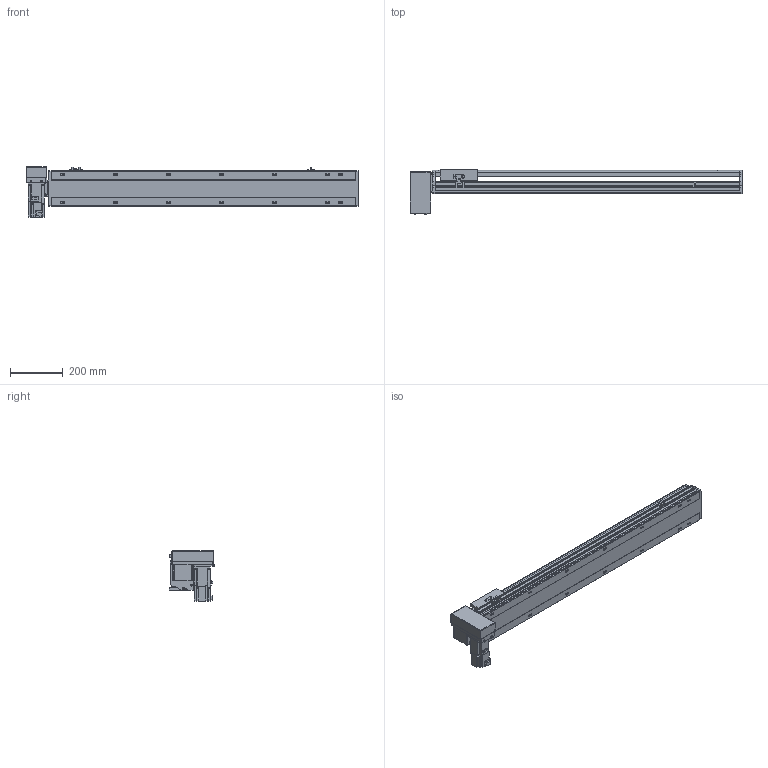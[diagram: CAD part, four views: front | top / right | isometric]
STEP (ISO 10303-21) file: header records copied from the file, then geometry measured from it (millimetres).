
FILE_DESCRIPTION( ( 'STEP AP214' ), '1' );
FILE_NAME( 'x:/temp/worker_6/temp/exporttempdir_5396_171_a5Q9n/format_0/PBS140S-P40-S900-RD-T40-C1-N(0).stp', '2022-06-09T00:42:56', ( 'License CC BY-ND 4.0' ), ( 'CADENAS' ), ' ', 'PARTsolutions', ' ' );
FILE_SCHEMA( ( 'AUTOMOTIVE_DESIGN { 1 0 10303 214 1 1 1 1 }' ) );
Length unit declared in the file: millimetre
Products named in the file (7): PBS140S-P40-S900-RD-T40-C1-N(0); _PBS140S-S900()_body; _PBS140ST-RD_motors; _T40-p1; _PBS140S_sliser; _PBS140S_plant; _PBS140S_sensor
Assembly tree (8 placements, depth 2):
  PBS140S-P40-S900-RD-T40-C1-N(0)
    _PBS140S-S900()_body
    _PBS140ST-RD_motors
    _T40-p1
    _PBS140S_sliser
    _PBS140S_plant
    _PBS140S_sensor  x3
Bounding box: 1254 x 172.5 x 189.7 mm (x, y, z)
Volume: 6582528.7 mm3; surface area: 1145218.9 mm2
Topology: 8 solids, 8 shells, 1083 faces, 2871 edges, 1879 vertices
Faces by surface type: plane 696, cylinder 337, cone 40, sphere 8, torus 2
Full cylindrical faces by diameter (mm): 3.242 x4, 4 x2, 4.134 x4, 4.4 x8, 4.5 x2, 4.8 x4, 4.917 x22, 5.5 x7, 6 x2, 7 x16, 7.5 x8, 8 x12, 8.5 x4, 10.5 x14, 14 x1, 30 x2, 50 x2
Entity records: 39694 total; most frequent: CARTESIAN_POINT 6238, DIRECTION 5278, ORIENTED_EDGE 5002, EDGE_CURVE 2501, AXIS2_PLACEMENT_3D 1829, VERTEX_POINT 1729, LINE 1620, VECTOR 1620
